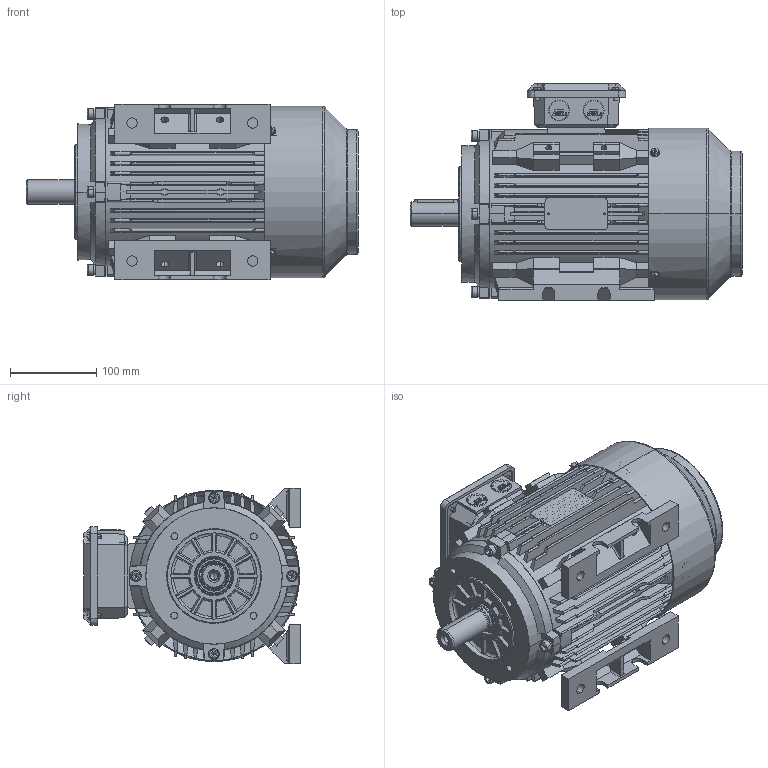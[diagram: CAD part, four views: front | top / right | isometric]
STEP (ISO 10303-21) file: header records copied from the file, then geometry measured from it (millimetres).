
FILE_DESCRIPTION (( 'STEP AP214' ), '1' );
FILE_NAME ('BCT4110.10J834.11.step', '2020-04-23T15:29:25', ( '' ), ( '' ), 'SwSTEP 2.0', 'SolidWorks 2019', '' );
FILE_SCHEMA (( 'AUTOMOTIVE_DESIGN' ));
Length unit declared in the file: millimetre
Products named in the file (1): BCT4110.10J834.11
Bounding box: 385 x 250.98 x 202.96 mm (x, y, z)
Volume: 3240109.8 mm3; surface area: 1079110.3 mm2
Topology: 34 solids, 34 shells, 3028 faces, 8065 edges, 5218 vertices
Faces by surface type: plane 1719, cylinder 742, cone 312, torus 166, bspline 89
Entity records: 113206 total; most frequent: CARTESIAN_POINT 38401, ORIENTED_EDGE 16034, DIRECTION 14532, EDGE_CURVE 8017, VERTEX_POINT 5218, AXIS2_PLACEMENT_3D 4872, VECTOR 4788, LINE 4788
